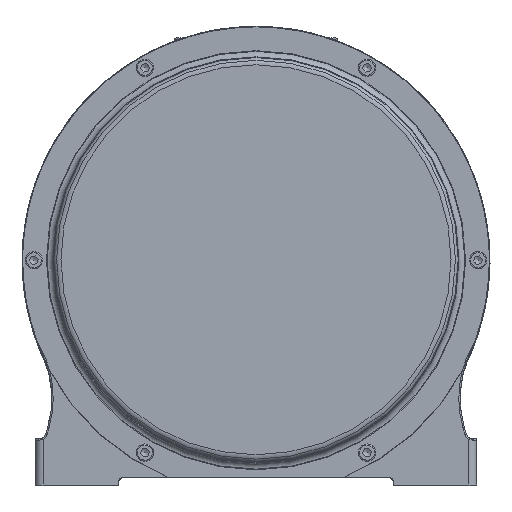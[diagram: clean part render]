
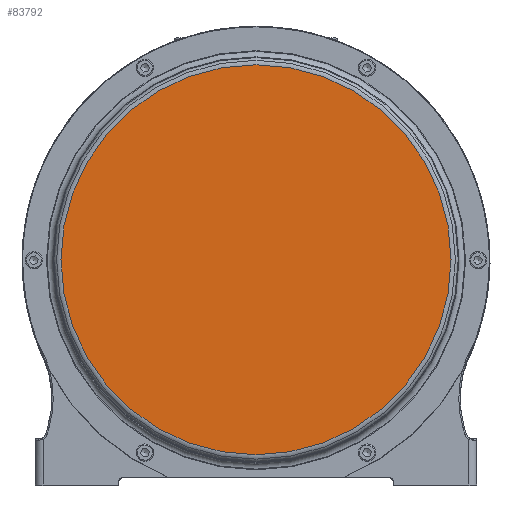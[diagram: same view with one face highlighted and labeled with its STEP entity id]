
A CAD part, top view. The second image highlights one B-rep face of the part: STEP entity #83792.
In plain terms, the highlighted planar face has unit normal (0, 0, 1).
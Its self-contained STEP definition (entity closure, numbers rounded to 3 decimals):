
#7821=CIRCLE('',#90394,147.5);
#13542=FACE_OUTER_BOUND('',#18547,.T.);
#18547=EDGE_LOOP('',(#64213));
#37698=VERTEX_POINT('',#195660);
#47394=EDGE_CURVE('',#37698,#37698,#7821,.T.);
#64213=ORIENTED_EDGE('',*,*,#47394,.F.);
#80042=PLANE('',#90396);
#83792=ADVANCED_FACE('',(#13542),#80042,.T.);
#90394=AXIS2_PLACEMENT_3D('',#195662,#101455,#101456);
#90396=AXIS2_PLACEMENT_3D('',#195664,#101459,#101460);
#101455=DIRECTION('center_axis',(0.,0.,
-1.));
#101456=DIRECTION('ref_axis',(0.,-1.,0.));
#101459=DIRECTION('center_axis',(0.,0.,
1.));
#101460=DIRECTION('ref_axis',(-1.,0.,0.));
#195660=CARTESIAN_POINT('',(-143.782,2.342,374.));
#195662=CARTESIAN_POINT('Origin',(3.718,2.342,374.));
#195664=CARTESIAN_POINT('Origin',(151.218,2.342,374.));
